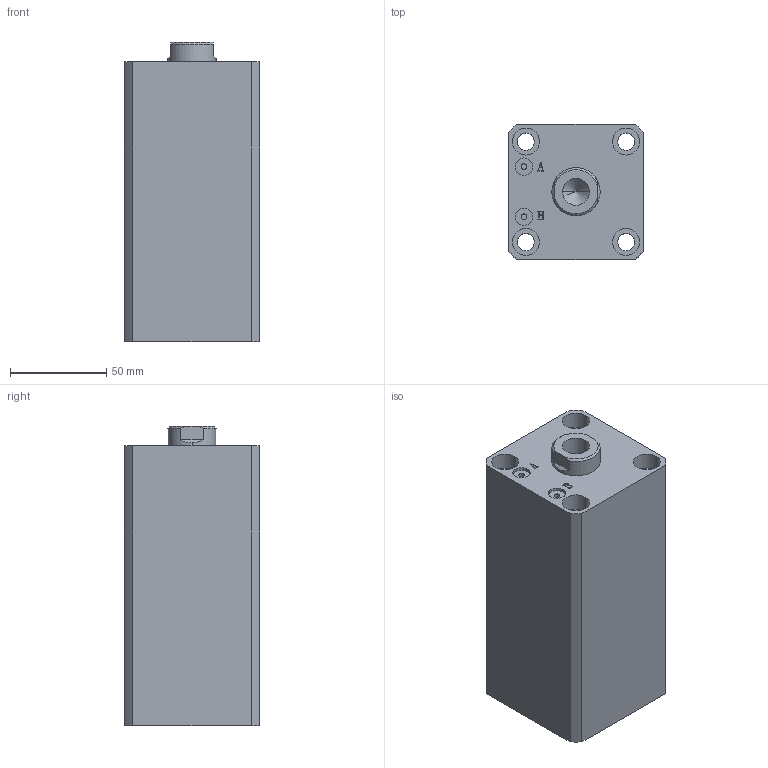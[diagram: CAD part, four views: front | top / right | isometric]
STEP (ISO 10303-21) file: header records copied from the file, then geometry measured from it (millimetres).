
FILE_DESCRIPTION (( 'STEP AP203' ), '1' );
FILE_NAME ('HTB-SDMA40-90N.STEP', '2019-10-07T11:58:16', ( '微软用户' ), ( '微软中国' ), 'SwSTEP 2.0', 'SolidWorks 2012', '' );
FILE_SCHEMA (( 'CONFIG_CONTROL_DESIGN' ));
Length unit declared in the file: millimetre
Products named in the file (3): HTB-SDMA40-90N; HTB-SDMA40-90N活塞杆; HTB-SDMA40-90掛极
Assembly tree (2 placements, depth 2):
  HTB-SDMA40-90N
    HTB-SDMA40-90掛极
    HTB-SDMA40-90N活塞杆
Bounding box: 70 x 70 x 155 mm (x, y, z)
Volume: 593334.6 mm3; surface area: 99202.8 mm2
Topology: 2 solids, 2 shells, 137 faces, 331 edges, 217 vertices
Faces by surface type: plane 65, cylinder 46, bspline 16, torus 6, cone 4
Entity records: 5074 total; most frequent: CARTESIAN_POINT 1580, ORIENTED_EDGE 658, DIRECTION 647, EDGE_CURVE 329, AXIS2_PLACEMENT_3D 232, VERTEX_POINT 217, LINE 183, VECTOR 183
